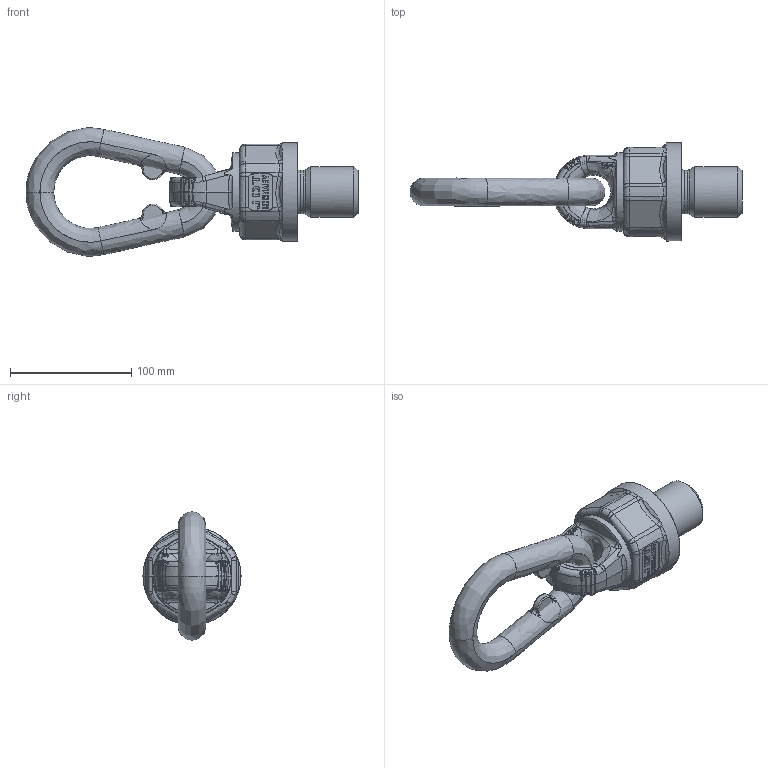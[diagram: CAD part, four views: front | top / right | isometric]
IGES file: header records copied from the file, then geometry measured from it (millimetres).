
Global section: file name: C:\IDEAS\IDEAS-DATEN\Temp\TP12.5_M42x50_senkrecht.igs; preprocessor: I-DEAS 3D IGES Translator 11; date: 20071108.102247; units: millimetre
Bounding box: 274.29 x 81 x 105.91 mm (x, y, z)
Surface area: 63243.2 mm2 (no closed solid volume)
Topology: 0 solids, 0 shells, 669 faces, 3528 edges, 3472 vertices
Faces by surface type: bspline 669
